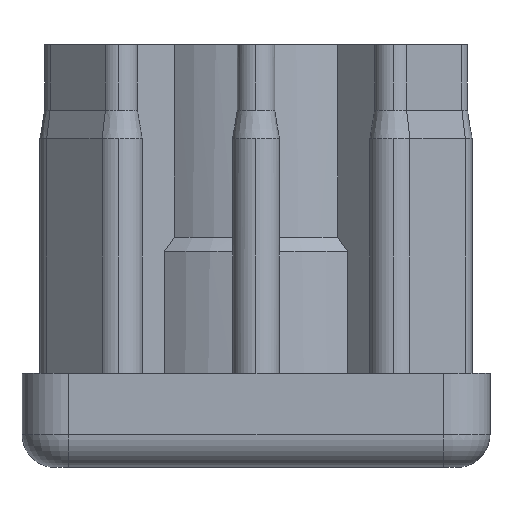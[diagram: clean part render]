
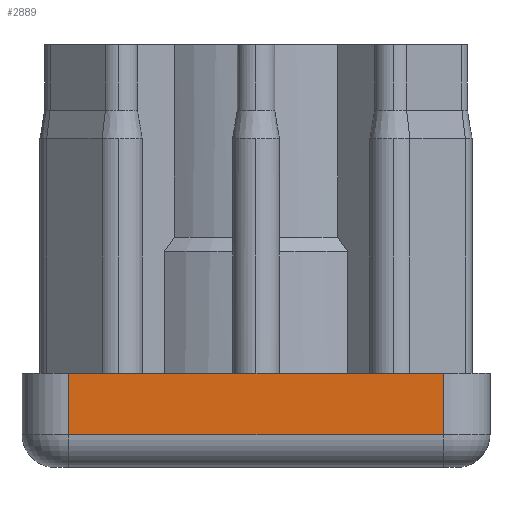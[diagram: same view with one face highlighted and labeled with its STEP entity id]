
A CAD part, left-side view. The second image highlights one B-rep face of the part: STEP entity #2889.
In plain terms, the highlighted planar face has unit normal (-1, 0, 0).
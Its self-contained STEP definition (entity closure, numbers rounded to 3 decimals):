
#46 = CARTESIAN_POINT ( 'NONE',  ( -24.9, -19.9, -6.5 ) ) ;
#262 = VERTEX_POINT ( 'NONE', #46 ) ;
#432 = EDGE_CURVE ( 'NONE', #3124, #1086, #5336, .T. ) ;
#517 = CARTESIAN_POINT ( 'NONE',  ( -24.9, -19.9, 0. ) ) ;
#638 = EDGE_CURVE ( 'NONE', #5428, #3124, #1775, .T. ) ;
#792 = DIRECTION ( 'NONE',  ( 1., 0., 0. ) ) ;
#890 = CARTESIAN_POINT ( 'NONE',  ( -24.9, 19.9, -6.5 ) ) ;
#1086 = VERTEX_POINT ( 'NONE', #890 ) ;
#1194 = LINE ( 'NONE', #3097, #4835 ) ;
#1573 = DIRECTION ( 'NONE',  ( 0., 0., -1. ) ) ;
#1641 = VECTOR ( 'NONE', #1573, 1000. ) ;
#1735 = CARTESIAN_POINT ( 'NONE',  ( -24.9, -24.9, -10. ) ) ;
#1775 = LINE ( 'NONE', #5678, #3178 ) ;
#1797 = AXIS2_PLACEMENT_3D ( 'NONE', #1735, #792, #2157 ) ;
#1856 = DIRECTION ( 'NONE',  ( 0., -1., 0. ) ) ;
#2014 = LINE ( 'NONE', #4151, #3917 ) ;
#2157 = DIRECTION ( 'NONE',  ( 0., 1., 0. ) ) ;
#2330 = CARTESIAN_POINT ( 'NONE',  ( -24.9, 19.9, 0. ) ) ;
#2427 = EDGE_CURVE ( 'NONE', #262, #5428, #1194, .T. ) ;
#2477 = ORIENTED_EDGE ( 'NONE', *, *, #432, .T. ) ;
#2889 = ADVANCED_FACE ( 'NONE', ( #3648 ), #3478, .F. ) ;
#3036 = DIRECTION ( 'NONE',  ( 0., 1., 0. ) ) ;
#3097 = CARTESIAN_POINT ( 'NONE',  ( -24.9, -19.9, -10. ) ) ;
#3124 = VERTEX_POINT ( 'NONE', #2330 ) ;
#3141 = ORIENTED_EDGE ( 'NONE', *, *, #3517, .T. ) ;
#3171 = ORIENTED_EDGE ( 'NONE', *, *, #638, .T. ) ;
#3178 = VECTOR ( 'NONE', #3036, 1000. ) ;
#3478 = PLANE ( 'NONE',  #1797 ) ;
#3517 = EDGE_CURVE ( 'NONE', #1086, #262, #2014, .T. ) ;
#3648 = FACE_OUTER_BOUND ( 'NONE', #3776, .T. ) ;
#3776 = EDGE_LOOP ( 'NONE', ( #2477, #3141, #4836, #3171 ) ) ;
#3917 = VECTOR ( 'NONE', #1856, 1000. ) ;
#4151 = CARTESIAN_POINT ( 'NONE',  ( -24.9, -24.9, -6.5 ) ) ;
#4252 = CARTESIAN_POINT ( 'NONE',  ( -24.9, 19.9, -10. ) ) ;
#4835 = VECTOR ( 'NONE', #4923, 1000. ) ;
#4836 = ORIENTED_EDGE ( 'NONE', *, *, #2427, .T. ) ;
#4923 = DIRECTION ( 'NONE',  ( 0., 0., 1. ) ) ;
#5336 = LINE ( 'NONE', #4252, #1641 ) ;
#5428 = VERTEX_POINT ( 'NONE', #517 ) ;
#5678 = CARTESIAN_POINT ( 'NONE',  ( -24.9, -24.9, 0. ) ) ;
